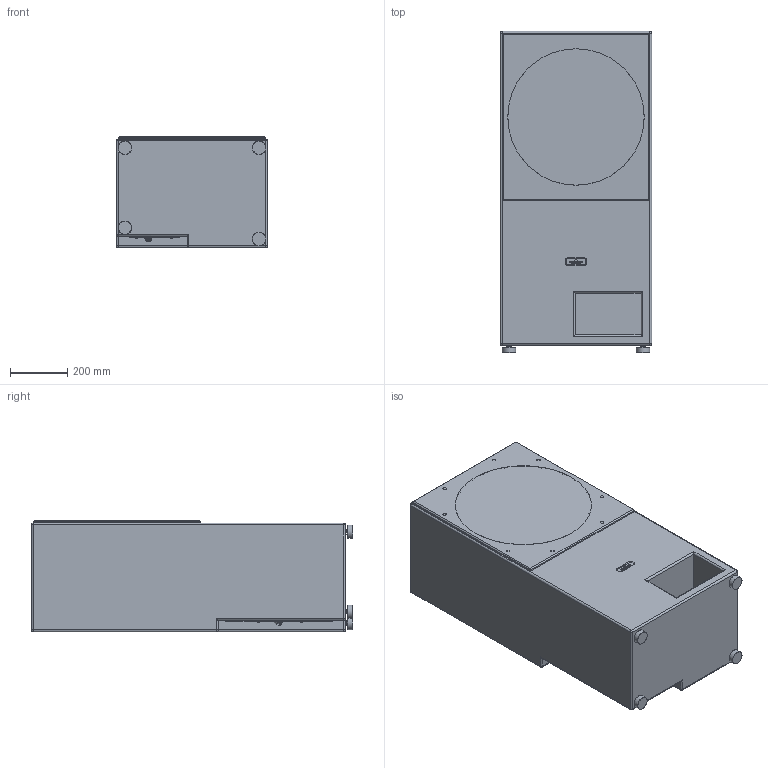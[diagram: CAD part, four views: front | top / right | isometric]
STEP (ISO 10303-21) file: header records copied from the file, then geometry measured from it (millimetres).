
FILE_DESCRIPTION(/* description */ ('','CAx-IF Rec.Pracs.---Representation and Presentation of Product Manufacturing Information (PMI)---4.0---2014-10-13'),/* implementation_level */ '2;1');
FILE_NAME(/* name */ '3D_THE18 SUB PRO PASSIVE VENTED_Public_SI.step',/* time_stamp */ '2025-01-28T21:24:20+01:00',/* author */ (''),/* organization */ (''),/* preprocessor_version */ 'ST-DEVELOPER v20',/* originating_system */ 'Autodesk Translation Framework v13.20.0.188',/* authorisation */ '');
FILE_SCHEMA (('AP242_MANAGED_MODEL_BASED_3D_ENGINEERING_MIM_LF { 1 0 10303 442 1 1 4 }'));
Products named in the file (3): The18 Sub PRO PASSIVE SEALED_COMBINE; THE 18 SUB PRO PCV_Public; COMBINE_Grille_with_Cloth
Assembly tree (2 placements, depth 2):
  The18 Sub PRO PASSIVE SEALED_COMBINE
    THE 18 SUB PRO PCV_Public
    COMBINE_Grille_with_Cloth
Bounding box: 530 x 1125 x 390.2 mm (x, y, z)
Volume: 210961854.6 mm3; surface area: 3719346.7 mm2
Topology: 30 solids, 52 shells, 2474 faces, 6502 edges, 4260 vertices
Faces by surface type: plane 1238, cylinder 537, bspline 505, cone 97, torus 74, sphere 23
Full cylindrical faces by diameter (mm): 1.2 x4, 3 x10, 4.5 x6, 5 x1, 5.5 x6, 6 x8, 6.701 x3, 7 x8, 8 x15, 12 x32, 12.4 x5, 12.5 x5, 13 x8, 14 x3, 14.9 x1, 17.6 x1, 21 x1, 23.6 x3, 24 x2, 24.25 x1, 25.9 x1, 26.5 x1, 47 x4, 166 x1, 422 x1, 430 x1, 466 x1, 470 x1, 478 x1
Entity records: 83394 total; most frequent: CARTESIAN_POINT 22803, ORIENTED_EDGE 13060, DIRECTION 11572, EDGE_CURVE 6530, VERTEX_POINT 4261, AXIS2_PLACEMENT_3D 3888, LINE 3796, VECTOR 3796
